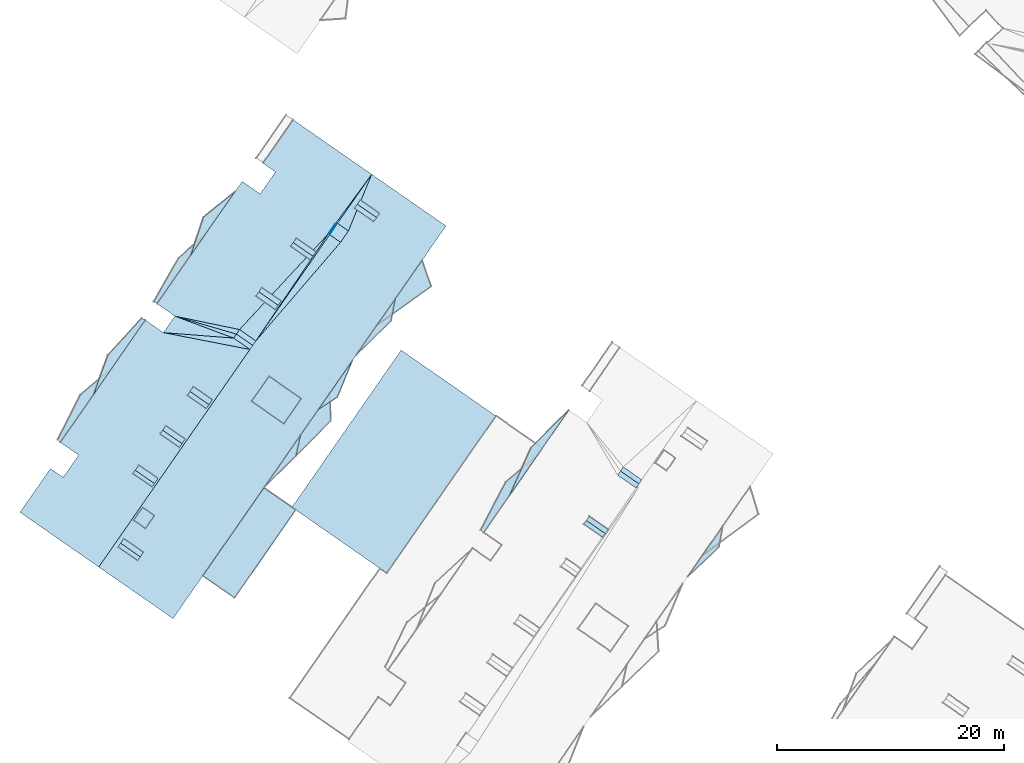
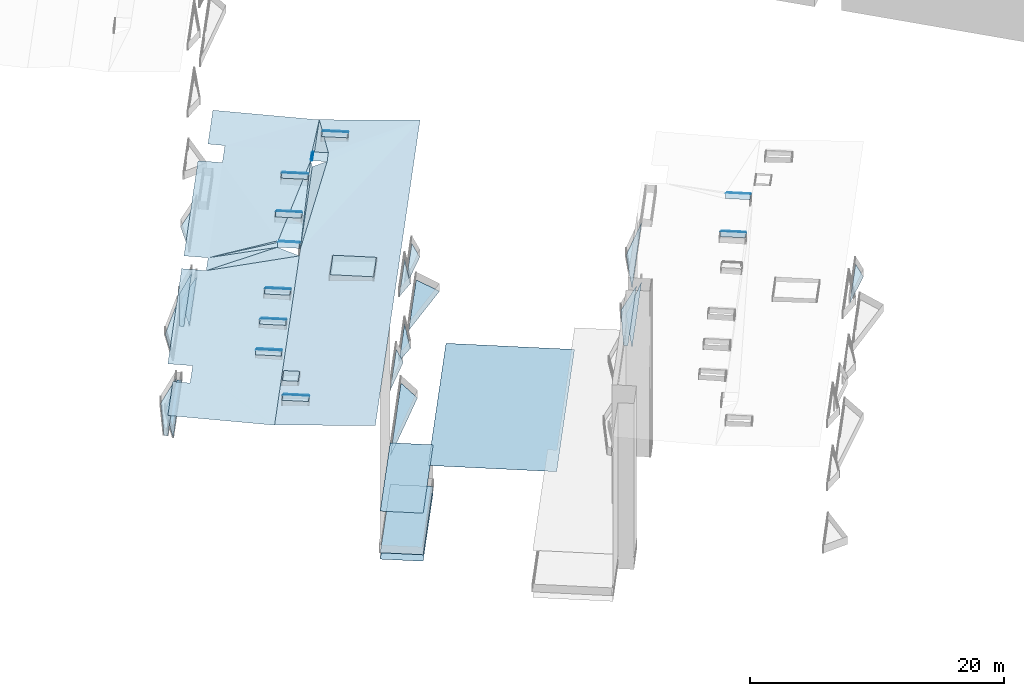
# Not in any storey, part 129 of 136: 91 roofs.
"""IFC4 building model written with IfcOpenShell, lengths in metres."""

import ifcopenshell
import ifcopenshell.guid

model = None  # the IFC model being written
_history = None  # IfcOwnerHistory: only IFC2X3 demands one
_inside = {}  # id of a spatial element -> (the spatial element, [elements in it])
_under = {}  # id of a project, library or spatial element -> (it, [spatial elements below it])
_declared = {}  # id of a project -> (the project, [libraries it declares])
_typed = {}  # id of a type object -> (the type object, [elements of that type])
_made_of = {}  # id of a material, layer set ... -> (it, [elements and type objects made of it])


def new_model(schema):
    """Start an empty IFC model of exactly this schema.

    Asked for "IFC4X3", IfcOpenShell would pick the latest addendum, in which some entities
    have other attributes; the version numbers below select the first issue.
    IFC2X3 requires an IfcOwnerHistory on every rooted entity: one is made here for all.
    """
    global model, _history
    if schema == "IFC4X3":
        model = ifcopenshell.file(schema_version=(4, 3, 0, 0))
    else:
        model = ifcopenshell.file(schema=schema)
    _inside.clear()
    _under.clear()
    _declared.clear()
    _typed.clear()
    _made_of.clear()
    _history = None
    if model.schema == "IFC2X3":
        org = make("IfcOrganization", Name="unknown")
        user = make(
            "IfcPersonAndOrganization",
            ThePerson=make("IfcPerson", FamilyName="unknown"),
            TheOrganization=org,
        )
        app = make(
            "IfcApplication",
            ApplicationDeveloper=org,
            Version="unknown",
            ApplicationFullName="unknown",
            ApplicationIdentifier="unknown",
        )
        _history = make(
            "IfcOwnerHistory",
            OwningUser=user,
            OwningApplication=app,
            ChangeAction="ADDED",
            CreationDate=0,
        )
    return model


def make(cls, **values):
    """One entity of the class cls with the attributes given. An attribute that is None is left unset."""
    return model.create_entity(
        cls, **{name: value for name, value in values.items() if value is not None}
    )


def entity(cls, *values):
    """Any entity or typed value of the class cls, its attributes in the order of the schema. None: left unset."""
    e = model.create_entity(cls)
    for i, value in enumerate(values):
        if value is not None:
            e[i] = value
    return e


def rooted(cls, **values):
    """An entity with a GlobalId (a new one), such as an element, a storey or a relation."""
    return make(cls, GlobalId=ifcopenshell.guid.new(), OwnerHistory=_history, **values)


def si_unit(unit_type, name, prefix=None):
    """IfcSIUnit, for example si_unit("LENGTHUNIT", "METRE", prefix="MILLI")."""
    return make("IfcSIUnit", UnitType=unit_type, Prefix=prefix, Name=name)


def converted_unit(unit_type, name, factor, base, dimensions=None, offset=None):
    """IfcConversionBasedUnit, such as the inch: factor (a typed value) times the base unit."""
    return make(
        "IfcConversionBasedUnit"
        if offset is None
        else "IfcConversionBasedUnitWithOffset",
        ConversionOffset=offset,
        Dimensions=None
        if dimensions is None
        else entity("IfcDimensionalExponents", *dimensions),
        UnitType=unit_type,
        Name=name,
        ConversionFactor=make(
            "IfcMeasureWithUnit", ValueComponent=factor, UnitComponent=base
        ),
    )


def assignment(units):
    """IfcUnitAssignment: the units of a project."""
    return None if units is None else make("IfcUnitAssignment", Units=units)


def point(xyz):
    """IfcCartesianPoint."""
    return None if xyz is None else make("IfcCartesianPoint", Coordinates=xyz)


def direction(xyz):
    """IfcDirection."""
    return None if xyz is None else make("IfcDirection", DirectionRatios=xyz)


def frame(location, z_axis=None, x_axis=None):
    """IfcAxis2Placement3D, a coordinate frame: its origin and axes. An axis left out is left unset."""
    return make(
        "IfcAxis2Placement3D",
        Location=point(location),
        Axis=direction(z_axis),
        RefDirection=direction(x_axis),
    )


def origin():
    """The frame at (0, 0, 0) with its axes left unset."""
    return frame((0.0, 0.0, 0.0))


def place(relative_to, where):
    """IfcLocalPlacement: puts the frame where relative to a parent placement (None: the world)."""
    return make(
        "IfcLocalPlacement", PlacementRelTo=relative_to, RelativePlacement=where
    )


def context(
    kind, dimensions, precision=None, world=None, true_north=None, identifier=None
):
    """IfcGeometricRepresentationContext, for example the 3D "Model" context."""
    return make(
        "IfcGeometricRepresentationContext",
        ContextIdentifier=identifier,
        ContextType=kind,
        CoordinateSpaceDimension=dimensions,
        Precision=precision,
        WorldCoordinateSystem=world,
        TrueNorth=true_north,
    )


def subcontext(parent, identifier, kind, view, scale=None):
    """IfcGeometricRepresentationSubContext, for example "Body" below "Model"."""
    return make(
        "IfcGeometricRepresentationSubContext",
        ContextIdentifier=identifier,
        ContextType=kind,
        ParentContext=parent,
        TargetScale=scale,
        TargetView=view,
    )


def project(units=None, contexts=None):
    """IfcProject with its units and contexts."""
    return rooted(
        "IfcProject",
        Name="project",
        RepresentationContexts=contexts,
        UnitsInContext=assignment(units),
    )


def spatial(cls, under=None, at=None, **own):
    """A site, building, storey or space (cls), placed at a placement, below another one or the project."""
    s = rooted(cls, ObjectPlacement=at, **own)
    if under is not None:
        _under.setdefault(under.id(), (under, []))[1].append(s)
    return s


def faces_of(points, faces, orient=None, outer=None):
    """IfcFace entities. A face is a list of loops; a loop is a list of indices into points, from 0.

    orient and outer hold one flag for each loop. By default every Orientation is true, the
    first loop of a face is its IfcFaceOuterBound and the others are IfcFaceBound.
    """
    made = []
    for i, loops in enumerate(faces):
        bounds = []
        for j, loop in enumerate(loops):
            is_outer = j == 0 if outer is None else outer[i][j]
            bounds.append(
                make(
                    "IfcFaceOuterBound" if is_outer else "IfcFaceBound",
                    Bound=make("IfcPolyLoop", Polygon=[points[k] for k in loop]),
                    Orientation=True if orient is None else orient[i][j],
                )
            )
        made.append(make("IfcFace", Bounds=bounds))
    return made


def face_set(faces, orient=None, outer=None):
    """The faces of one IfcConnectedFaceSet. surface_model builds it on its shared points."""
    return ("IfcConnectedFaceSet", faces, orient, outer)


def surface_model(cls, points, shells):
    """IfcFaceBasedSurfaceModel or IfcShellBasedSurfaceModel (cls): surfaces that need not close."""
    shared = [point(p) for p in points]
    made = [make(c, CfsFaces=faces_of(shared, fs, o, b)) for c, fs, o, b in shells]
    if cls == "IfcFaceBasedSurfaceModel":
        return make(cls, FbsmFaces=made)
    return make(cls, SbsmBoundary=made)


def shape(context_of_items, identifier, shape_type, items):
    """IfcShapeRepresentation: the items that make up one representation, for example the "Body"."""
    return make(
        "IfcShapeRepresentation",
        ContextOfItems=context_of_items,
        RepresentationIdentifier=identifier,
        RepresentationType=shape_type,
        Items=items,
    )


def made_of(thing, what):
    """Note that an element or type object is made of a material, layer set ...; save() writes the relation."""
    if what is not None:
        _made_of.setdefault(what.id(), (what, []))[1].append(thing)
    return thing


def element(
    cls,
    number,
    at=None,
    inside=None,
    cuts=None,
    type_object=None,
    material=None,
    context=None,
    identifier="Body",
    shape_type=None,
    held_by="IfcProductDefinitionShape",
    body=None,
    shapes=None,
    **own,
):
    """One element of the class cls, such as IfcWall. Its Tag is "e" and its number.

    at: its placement. inside: the storey or other place that contains it. cuts: it is an
    opening in that element (IfcRelVoidsElement). A single representation is given by context,
    identifier, shape_type and body (its items); several are given by shapes. held_by: the class
    of the entity that holds the representations. save() writes the other relations.
    """
    e = rooted(cls, Tag="e%d" % number, ObjectPlacement=at, **own)
    if body is not None:
        shapes = [shape(context, identifier, shape_type, body)]
    if shapes is not None:
        e.Representation = make(held_by, Representations=shapes)
    if inside is not None:
        _inside.setdefault(inside.id(), (inside, []))[1].append(e)
    if cuts is not None:
        rooted(
            "IfcRelVoidsElement", RelatingBuildingElement=cuts, RelatedOpeningElement=e
        )
    if type_object is not None:
        _typed.setdefault(type_object.id(), (type_object, []))[1].append(e)
    return made_of(e, material)


def aggregate(whole, parts):
    """IfcRelAggregates: a whole, such as a stair, and the parts it consists of."""
    return rooted("IfcRelAggregates", RelatingObject=whole, RelatedObjects=parts)


def save(model, path):
    """Write the relations noted so far, then the file.

    IfcRelAggregates (storeys below a building ...), IfcRelContainedInSpatialStructure (elements
    in a storey), IfcRelDefinesByType, IfcRelAssociatesMaterial and IfcRelDeclares: one each for
    every whole, place, type object, material and project.
    """
    for whole, parts in _under.values():
        aggregate(whole, parts)
    for where, things in _inside.values():
        rooted(
            "IfcRelContainedInSpatialStructure",
            RelatedElements=things,
            RelatingStructure=where,
        )
    for kind, things in _typed.values():
        rooted("IfcRelDefinesByType", RelatedObjects=things, RelatingType=kind)
    for what, things in _made_of.values():
        rooted("IfcRelAssociatesMaterial", RelatedObjects=things, RelatingMaterial=what)
    for by, libraries in _declared.values():
        rooted("IfcRelDeclares", RelatingContext=by, RelatedDefinitions=libraries)
    model.write(path)


model = new_model("IFC4")

# Units and contexts
model_context = context("Model", 3, precision=1e-05, world=origin())
body_context = subcontext(model_context, "Body", "Model", "MODEL_VIEW")
ifc_project = project(units=[converted_unit("PLANEANGLEUNIT", "DEGREE", entity("IfcRatioMeasure", 0.0174532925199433), si_unit("PLANEANGLEUNIT", "RADIAN"), dimensions=[0, 0, 0, 0, 0, 0, 0]), si_unit("AREAUNIT", "SQUARE_METRE"), si_unit("LENGTHUNIT", "METRE")], contexts=[model_context])

# Site, building
site_placement = place(None, origin())
site = spatial("IfcSite", under=ifc_project, at=site_placement, Name="_site")
building_1_placement = place(site_placement, origin())
building_1 = spatial("IfcBuilding", under=site, at=building_1_placement, Name="_building")

# Roofs
roof_1_placement = place(building_1_placement, origin())
element("IfcRoof", 1, at=roof_1_placement, inside=building_1, Name="Roof", PredefinedType="NOTDEFINED", context=body_context, shape_type="SurfaceModel", body=[
    surface_model("IfcFaceBasedSurfaceModel", [(-12.71, 69.46, 44.4), (-16.02, 66.17, 44.4), (-17.93, 61.93, 44.4)], [face_set([[[0, 1, 2]]])]),
])
for number, where, name in (
    (2, (0.0, 0.0, 0.0), "Roof"),
    (3, (0.0, 0.0, 0.0), "Roof"),
):
    element("IfcRoof", number, at=place(building_1_placement, frame(where)), inside=building_1, Name=name, PredefinedType="NOTDEFINED", context=body_context, shape_type="SurfaceModel", body=[
        surface_model("IfcFaceBasedSurfaceModel", [(-9.49, 58.59, 54.52), (-9.24, 58.95, 54.35), (-10.91, 60.11, 54.35), (-11.16, 59.75, 54.52)], [face_set([[[0, 1, 2, 3]]])]),
    ])
roof_2_placement = place(building_1_placement, origin())
element("IfcRoof", 4, at=roof_2_placement, inside=building_1, Name="Roof", PredefinedType="NOTDEFINED", context=body_context, shape_type="SurfaceModel", body=[
    surface_model("IfcFaceBasedSurfaceModel", [(-12.71, 69.46, 44.4), (-16.02, 66.17, 44.4), (-17.93, 61.93, 44.4)], [face_set([[[0, 1, 2]]])]),
])
for number, where, name in (
    (5, (0.0, 0.0, 0.0), "Roof"),
    (6, (0.0, 0.0, 0.0), "Roof"),
):
    element("IfcRoof", number, at=place(building_1_placement, frame(where)), inside=building_1, Name=name, PredefinedType="NOTDEFINED", context=body_context, shape_type="SurfaceModel", body=[
        surface_model("IfcFaceBasedSurfaceModel", [(-12.71, 69.46, 50.1), (-16.02, 66.17, 50.1), (-17.93, 61.93, 50.1)], [face_set([[[0, 1, 2]]])]),
    ])
for number, where, name in (
    (7, (0.0, 0.0, 0.0), "Roof"),
    (8, (0.0, 0.0, 0.0), "Roof"),
):
    element("IfcRoof", number, at=place(building_1_placement, frame(where)), inside=building_1, Name=name, PredefinedType="NOTDEFINED", context=body_context, shape_type="SurfaceModel", body=[
        surface_model("IfcFaceBasedSurfaceModel", [(-9.72, 58.26, 54.35), (-9.49, 58.59, 54.52), (-11.16, 59.75, 54.52), (-11.39, 59.42, 54.35)], [face_set([[[0, 1, 2, 3]]])]),
    ])
for number, where, name in (
    (9, (0.0, 0.0, 0.0), "Roof"),
    (10, (0.0, 0.0, 0.0), "Roof"),
):
    element("IfcRoof", number, at=place(building_1_placement, frame(where)), inside=building_1, Name=name, PredefinedType="NOTDEFINED", context=body_context, shape_type="SurfaceModel", body=[
        surface_model("IfcFaceBasedSurfaceModel", [(-15.46, 65.49, 47.4), (-18.25, 63.13, 47.4), (-20.46, 58.9, 47.4), (-20.19, 58.67, 47.4)], [face_set([[[0, 1, 2, 3]]])]),
    ])
for number, where, name in (
    (11, (0.0, 0.0, 0.0), "Roof"),
    (12, (0.0, 0.0, 0.0), "Roof"),
):
    element("IfcRoof", number, at=place(building_1_placement, frame(where)), inside=building_1, Name=name, PredefinedType="NOTDEFINED", context=body_context, shape_type="SurfaceModel", body=[
        surface_model("IfcFaceBasedSurfaceModel", [(-6.54, 62.97, 54.52), (-8.16, 64.101, 54.52), (-8.41, 63.74, 54.35), (-6.79, 62.61, 54.35), (-6.679, 62.771, 54.426)], [face_set([[[0, 1, 2, 3, 4]]])]),
    ])
for number, where, name in (
    (13, (0.0, 0.0, 0.0), "Roof"),
    (14, (0.0, 0.0, 0.0), "Roof"),
):
    element("IfcRoof", number, at=place(building_1_placement, frame(where)), inside=building_1, Name=name, PredefinedType="NOTDEFINED", context=body_context, shape_type="SurfaceModel", body=[
        surface_model("IfcFaceBasedSurfaceModel", [(-6.29, 63.33, 54.35), (-7.91, 64.46, 54.35), (-8.16, 64.101, 54.52), (-6.54, 62.97, 54.52)], [face_set([[[0, 1, 2, 3]]])]),
    ])
for number, where, name in (
    (15, (0.0, 0.0, 0.0), "Roof"),
    (16, (0.0, 0.0, 0.0), "Roof"),
):
    element("IfcRoof", number, at=place(building_1_placement, frame(where)), inside=building_1, Name=name, PredefinedType="NOTDEFINED", context=body_context, shape_type="SurfaceModel", body=[
        surface_model("IfcFaceBasedSurfaceModel", [(-2.24, 54.8, 47.54), (0.51, 57.41, 47.54), (0.85, 59.25, 47.54)], [face_set([[[0, 1, 2]]])]),
    ])

# Building
building_2_placement = place(site_placement, origin())
building_2 = spatial("IfcBuilding", under=site, at=building_2_placement, Name="_building")

# Roofs
for number, where, name in (
    (17, (0.0, 0.0, 0.0), "Roof"),
    (18, (0.0, 0.0, 0.0), "Roof"),
):
    element("IfcRoof", number, at=place(building_2_placement, frame(where)), inside=building_2, Name=name, PredefinedType="NOTDEFINED", context=body_context, shape_type="SurfaceModel", body=[
        surface_model("IfcFaceBasedSurfaceModel", [(-36.96, 84.2, 54.35), (-37.19, 83.87, 54.18), (-35.46, 82.67, 54.18), (-35.23, 83.01, 54.35)], [face_set([[[0, 1, 2, 3]]])]),
    ])
roof_3_placement = place(building_2_placement, origin())
element("IfcRoof", 19, at=roof_3_placement, inside=building_2, Name="Roof", PredefinedType="NOTDEFINED", context=body_context, shape_type="SurfaceModel", body=[
    surface_model("IfcFaceBasedSurfaceModel", [(-31.32, 87.58, 54.33), (-31.57, 87.22, 54.18), (-29.87, 86.04, 54.18), (-29.62, 86.41, 54.33)], [face_set([[[0, 1, 2, 3]]])]),
])
roof_4_placement = place(building_2_placement, origin())
element("IfcRoof", 20, at=roof_4_placement, inside=building_2, Name="Roof", PredefinedType="NOTDEFINED", context=body_context, shape_type="SurfaceModel", body=[
    surface_model("IfcFaceBasedSurfaceModel", [(-33.06, 85.9, 53.46), (-32.1, 85.23, 54.02), (-32.79, 84.23, 54.02), (-33.75, 84.9, 53.46), (-40.248, 75.549, 53.46), (-40.519, 75.159, 53.46), (-40.769, 74.799, 53.46), (-54.07, 55.65, 53.46), (-47.53, 51.11, 53.88), (-44.91, 54.88, 53.88), (-39.53, 62.62, 53.88), (-23.51, 85.67, 53.88), (-30.05, 90.21, 53.46)], [face_set([[[0, 1, 2, 3, 4, 5, 6, 7, 8, 9, 10, 11, 12]]])]),
])
roof_5_placement = place(building_2_placement, origin())
element("IfcRoof", 21, at=roof_5_placement, inside=building_2, Name="Roof", PredefinedType="NOTDEFINED", context=body_context, shape_type="SurfaceModel", body=[
    surface_model("IfcFaceBasedSurfaceModel", [(-31.32, 87.58, 54.33), (-31.57, 87.22, 54.18), (-29.87, 86.04, 54.18), (-29.62, 86.41, 54.33)], [face_set([[[0, 1, 2, 3]]])]),
])
roof_6_placement = place(building_2_placement, origin())
element("IfcRoof", 22, at=roof_6_placement, inside=building_2, Name="Roof", PredefinedType="NOTDEFINED", context=body_context, shape_type="SurfaceModel", body=[
    surface_model("IfcFaceBasedSurfaceModel", [(-33.06, 85.9, 53.46), (-32.1, 85.23, 54.02), (-32.79, 84.23, 54.02), (-33.75, 84.9, 53.46), (-40.248, 75.549, 53.46), (-40.519, 75.159, 53.46), (-40.769, 74.799, 53.46), (-54.07, 55.65, 53.46), (-47.53, 51.11, 53.88), (-44.91, 54.88, 53.88), (-39.53, 62.62, 53.88), (-23.51, 85.67, 53.88), (-30.05, 90.21, 53.46)], [face_set([[[0, 1, 2, 3, 4, 5, 6, 7, 8, 9, 10, 11, 12]]])]),
])
roof_7_placement = place(building_2_placement, origin())
element("IfcRoof", 23, at=roof_7_placement, inside=building_2, Name="Roof", PredefinedType="NOTDEFINED", context=body_context, shape_type="SurfaceModel", body=[
    surface_model("IfcFaceBasedSurfaceModel", [(-30.05, 90.21, 53.46), (-30.32, 90.4, 53.46), (-36.96, 95.01, 53.88), (-39.62, 91.18, 53.88), (-38.52, 90.42, 53.81), (-39.86, 88.49, 53.81), (-41.45, 89.59, 53.88), (-48.94, 78.82, 53.88), (-47.37, 77.73, 53.81), (-48.38, 76.28, 53.81), (-49.97, 77.39, 53.88), (-57.45, 66.62, 53.88), (-55.84, 65.5, 53.81), (-57.2, 63.54, 53.81), (-58.32, 64.32, 53.88), (-61.0, 60.47, 53.88), (-54.34, 55.84, 53.46), (-54.07, 55.65, 53.46), (-40.769, 74.799, 53.46), (-42.2, 75.8, 54.18), (-41.96, 76.15, 54.35), (-41.68, 76.55, 54.18), (-40.248, 75.549, 53.46), (-33.75, 84.9, 53.46), (-33.86, 84.98, 54.02), (-33.17, 85.97, 54.02), (-33.06, 85.9, 53.46)], [face_set([[[0, 1, 2, 3, 4, 5, 6, 7, 8, 9, 10, 11, 12, 13, 14, 15, 16, 17, 18, 19, 20, 21, 22, 23, 24, 25, 26]]])]),
])
for number, where, name in (
    (24, (0.0, 0.0, 0.0), "Roof"),
    (25, (0.0, 0.0, 0.0), "Roof"),
):
    element("IfcRoof", number, at=place(building_2_placement, frame(where)), inside=building_2, Name=name, PredefinedType="NOTDEFINED", context=body_context, shape_type="SurfaceModel", body=[
        surface_model("IfcFaceBasedSurfaceModel", [(-39.98, 79.87, 54.35), (-40.25, 79.49, 54.18), (-38.54, 78.3, 54.18), (-38.28, 78.68, 54.35)], [face_set([[[0, 1, 2, 3]]])]),
    ])
for number, where, name in (
    (26, (0.0, 0.0, 0.0), "Roof"),
    (27, (0.0, 0.0, 0.0), "Roof"),
):
    element("IfcRoof", number, at=place(building_2_placement, frame(where)), inside=building_2, Name=name, PredefinedType="NOTDEFINED", context=body_context, shape_type="SurfaceModel", body=[
        surface_model("IfcFaceBasedSurfaceModel", [(-48.45, 67.69, 54.37), (-48.68, 67.36, 54.18), (-46.97, 66.17, 54.18), (-46.74, 66.51, 54.37)], [face_set([[[0, 1, 2, 3]]])]),
    ])
roof_8_placement = place(building_2_placement, origin())
element("IfcRoof", 28, at=roof_8_placement, inside=building_2, Name="Roof", PredefinedType="NOTDEFINED", context=body_context, shape_type="SurfaceModel", body=[
    surface_model("IfcFaceBasedSurfaceModel", [(-30.05, 90.21, 53.46), (-30.32, 90.4, 53.46), (-36.96, 95.01, 53.88), (-39.62, 91.18, 53.88), (-38.52, 90.42, 53.81), (-39.86, 88.49, 53.81), (-41.45, 89.59, 53.88), (-48.94, 78.82, 53.88), (-47.37, 77.73, 53.81), (-48.38, 76.28, 53.81), (-49.97, 77.39, 53.88), (-57.45, 66.62, 53.88), (-55.84, 65.5, 53.81), (-57.2, 63.54, 53.81), (-58.32, 64.32, 53.88), (-61.0, 60.47, 53.88), (-54.34, 55.84, 53.46), (-54.07, 55.65, 53.46), (-40.769, 74.799, 53.46), (-42.2, 75.8, 54.18), (-41.96, 76.15, 54.35), (-41.68, 76.55, 54.18), (-40.248, 75.549, 53.46), (-33.75, 84.9, 53.46), (-33.86, 84.98, 54.02), (-33.17, 85.97, 54.02), (-33.06, 85.9, 53.46)], [face_set([[[0, 1, 2, 3, 4, 5, 6, 7, 8, 9, 10, 11, 12, 13, 14, 15, 16, 17, 18, 19, 20, 21, 22, 23, 24, 25, 26]]])]),
])
for number, where, name in (
    (29, (0.0, 0.0, 0.0), "Roof"),
    (30, (0.0, 0.0, 0.0), "Roof"),
):
    element("IfcRoof", number, at=place(building_2_placement, frame(where)), inside=building_2, Name=name, PredefinedType="NOTDEFINED", context=body_context, shape_type="SurfaceModel", body=[
        surface_model("IfcFaceBasedSurfaceModel", [(-33.06, 85.9, 54.02), (-33.17, 85.97, 54.02), (-33.86, 84.98, 54.02), (-33.75, 84.9, 54.02)], [face_set([[[0, 1, 2, 3]]])]),
    ])
roof_9_placement = place(building_2_placement, origin())
element("IfcRoof", 31, at=roof_9_placement, inside=building_2, Name="Roof", PredefinedType="NOTDEFINED", context=body_context, shape_type="SurfaceModel", body=[
    surface_model("IfcFaceBasedSurfaceModel", [(-33.75, 84.9, 54.02), (-32.79, 84.23, 54.02), (-32.1, 85.23, 54.02), (-33.06, 85.9, 54.02)], [face_set([[[0, 1, 2, 3]]])]),
])
roof_10_placement = place(building_2_placement, origin())
element("IfcRoof", 32, at=roof_10_placement, inside=building_2, Name="Roof", PredefinedType="NOTDEFINED", context=body_context, shape_type="SurfaceModel", body=[
    surface_model("IfcFaceBasedSurfaceModel", [(-46.04, 71.101, 54.37), (-46.28, 70.75, 54.18), (-44.61, 69.59, 54.18), (-44.37, 69.94, 54.37)], [face_set([[[0, 1, 2, 3]]])]),
])
roof_11_placement = place(building_2_placement, origin())
element("IfcRoof", 33, at=roof_11_placement, inside=building_2, Name="Roof", PredefinedType="NOTDEFINED", context=body_context, shape_type="SurfaceModel", body=[
    surface_model("IfcFaceBasedSurfaceModel", [(-33.75, 84.9, 54.02), (-32.79, 84.23, 54.02), (-32.1, 85.23, 54.02), (-33.06, 85.9, 54.02)], [face_set([[[0, 1, 2, 3]]])]),
])
roof_12_placement = place(building_2_placement, origin())
element("IfcRoof", 34, at=roof_12_placement, inside=building_2, Name="Roof", PredefinedType="NOTDEFINED", context=body_context, shape_type="SurfaceModel", body=[
    surface_model("IfcFaceBasedSurfaceModel", [(-46.04, 71.101, 54.37), (-46.28, 70.75, 54.18), (-44.61, 69.59, 54.18), (-44.37, 69.94, 54.37)], [face_set([[[0, 1, 2, 3]]])]),
])
for number, where, name in (
    (35, (0.0, 0.0, 0.0), "Roof"),
    (36, (0.0, 0.0, 0.0), "Roof"),
):
    element("IfcRoof", number, at=place(building_2_placement, frame(where)), inside=building_2, Name=name, PredefinedType="NOTDEFINED", context=body_context, shape_type="SurfaceModel", body=[
        surface_model("IfcFaceBasedSurfaceModel", [(-52.14, 57.75, 54.37), (-52.37, 57.41, 54.18), (-50.65, 56.22, 54.18), (-50.42, 56.55, 54.37)], [face_set([[[0, 1, 2, 3]]])]),
    ])
for number, where, name in (
    (37, (0.0, 0.0, 0.0), "Roof"),
    (38, (0.0, 0.0, 0.0), "Roof"),
):
    element("IfcRoof", number, at=place(building_2_placement, frame(where)), inside=building_2, Name=name, PredefinedType="NOTDEFINED", context=body_context, shape_type="SurfaceModel", body=[
        surface_model("IfcFaceBasedSurfaceModel", [(-50.86, 64.17, 54.37), (-51.07, 63.87, 54.18), (-49.38, 62.7, 54.18), (-49.17, 63.0, 54.37)], [face_set([[[0, 1, 2, 3]]])]),
    ])
for number, where, name in (
    (39, (0.0, 0.0, 0.0), "Roof"),
    (40, (0.0, 0.0, 0.0), "Roof"),
):
    element("IfcRoof", number, at=place(building_2_placement, frame(where)), inside=building_2, Name=name, PredefinedType="NOTDEFINED", context=body_context, shape_type="SurfaceModel", body=[
        surface_model("IfcFaceBasedSurfaceModel", [(-37.07, 60.91, 40.43), (-36.74, 60.68, 40.43), (-29.32, 55.521, 40.43), (-28.72, 55.11, 40.43), (-19.11, 68.94, 40.43), (-27.46, 74.74, 40.43)], [face_set([[[0, 1, 2, 3, 4, 5]]])]),
    ])
roof_13_placement = place(building_2_placement, origin())
element("IfcRoof", 41, at=roof_13_placement, inside=building_2, Name="Roof", PredefinedType="NOTDEFINED", context=body_context, shape_type="SurfaceModel", body=[
    surface_model("IfcFaceBasedSurfaceModel", [(-44.71, 84.91, 47.1), (-47.04, 82.84, 47.1), (-49.22, 79.01, 47.1), (-48.94, 78.82, 47.1)], [face_set([[[0, 1, 2, 3]]])]),
])
for number, where, name in (
    (42, (0.0, 0.0, 0.0), "Roof"),
    (43, (0.0, 0.0, 0.0), "Roof"),
):
    element("IfcRoof", number, at=place(building_2_placement, frame(where)), inside=building_2, Name=name, PredefinedType="NOTDEFINED", context=body_context, shape_type="SurfaceModel", body=[
        surface_model("IfcFaceBasedSurfaceModel", [(-31.78, 73.771, 50.63), (-34.74, 69.51, 50.63), (-33.08, 70.61, 50.63)], [face_set([[[0, 1, 2]]])]),
    ])
roof_14_placement = place(building_2_placement, origin())
element("IfcRoof", 44, at=roof_14_placement, inside=building_2, Name="Roof", PredefinedType="NOTDEFINED", context=body_context, shape_type="SurfaceModel", body=[
    surface_model("IfcFaceBasedSurfaceModel", [(-48.17, 68.09, 54.18), (-48.45, 67.69, 54.37), (-46.74, 66.51, 54.37), (-46.46, 66.91, 54.18)], [face_set([[[0, 1, 2, 3]]])]),
])
roof_15_placement = place(building_2_placement, origin())
element("IfcRoof", 45, at=roof_15_placement, inside=building_2, Name="Roof", PredefinedType="NOTDEFINED", context=body_context, shape_type="SurfaceModel", body=[
    surface_model("IfcFaceBasedSurfaceModel", [(-44.71, 84.91, 47.1), (-47.04, 82.84, 47.1), (-49.22, 79.01, 47.1), (-48.94, 78.82, 47.1)], [face_set([[[0, 1, 2, 3]]])]),
])
roof_16_placement = place(building_2_placement, origin())
element("IfcRoof", 46, at=roof_16_placement, inside=building_2, Name="Roof", PredefinedType="NOTDEFINED", context=body_context, shape_type="SurfaceModel", body=[
    surface_model("IfcFaceBasedSurfaceModel", [(-45.74, 71.53, 54.18), (-46.04, 71.101, 54.37), (-44.37, 69.94, 54.37), (-44.07, 70.37, 54.18)], [face_set([[[0, 1, 2, 3]]])]),
])
roof_17_placement = place(building_2_placement, origin())
element("IfcRoof", 47, at=roof_17_placement, inside=building_2, Name="Roof", PredefinedType="NOTDEFINED", context=body_context, shape_type="SurfaceModel", body=[
    surface_model("IfcFaceBasedSurfaceModel", [(-36.29, 67.28, 47.47), (-39.53, 62.62, 47.47), (-36.71, 65.45, 47.47)], [face_set([[[0, 1, 2]]])]),
])
for number, where, name in (
    (48, (0.0, 0.0, 0.0), "Roof"),
    (49, (0.0, 0.0, 0.0), "Roof"),
):
    element("IfcRoof", number, at=place(building_2_placement, frame(where)), inside=building_2, Name=name, PredefinedType="NOTDEFINED", context=body_context, shape_type="SurfaceModel", body=[
        surface_model("IfcFaceBasedSurfaceModel", [(-27.96, 79.271, 47.47), (-31.43, 74.28, 47.47), (-28.35, 77.32, 47.47)], [face_set([[[0, 1, 2]]])]),
    ])
roof_18_placement = place(building_2_placement, origin())
element("IfcRoof", 50, at=roof_18_placement, inside=building_2, Name="Roof", PredefinedType="NOTDEFINED", context=body_context, shape_type="SurfaceModel", body=[
    surface_model("IfcFaceBasedSurfaceModel", [(-31.78, 73.771, 44.42), (-34.74, 69.51, 44.42), (-33.08, 70.61, 44.42)], [face_set([[[0, 1, 2]]])]),
])
for number, where, name in (
    (51, (0.0, 0.0, 0.0), "Roof"),
    (52, (0.0, 0.0, 0.0), "Roof"),
):
    element("IfcRoof", number, at=place(building_2_placement, frame(where)), inside=building_2, Name=name, PredefinedType="NOTDEFINED", context=body_context, shape_type="SurfaceModel", body=[
        surface_model("IfcFaceBasedSurfaceModel", [(-52.89, 73.18, 46.95), (-55.72, 70.76, 46.95), (-57.68, 66.84, 46.95), (-57.45, 66.62, 46.95)], [face_set([[[0, 1, 2, 3]]])]),
    ])
for number, where, name in (
    (53, (0.0, 0.0, 0.0), "Roof"),
    (54, (0.0, 0.0, 0.0), "Roof"),
):
    element("IfcRoof", number, at=place(building_2_placement, frame(where)), inside=building_2, Name=name, PredefinedType="NOTDEFINED", context=body_context, shape_type="SurfaceModel", body=[
        surface_model("IfcFaceBasedSurfaceModel", [(-53.26, 74.3, 50.62), (-54.53, 70.82, 50.62), (-49.97, 77.39, 50.62), (-50.3, 77.53, 50.62)], [face_set([[[0, 1, 2, 3]]])]),
    ])
roof_19_placement = place(building_2_placement, origin())
element("IfcRoof", 55, at=roof_19_placement, inside=building_2, Name="Roof", PredefinedType="NOTDEFINED", context=body_context, shape_type="SurfaceModel", body=[
    surface_model("IfcFaceBasedSurfaceModel", [(-51.86, 58.15, 54.18), (-52.14, 57.75, 54.37), (-50.42, 56.55, 54.37), (-50.14, 56.95, 54.18)], [face_set([[[0, 1, 2, 3]]])]),
])
for number, where, name in (
    (56, (0.0, 0.0, 0.0), "Roof"),
    (57, (0.0, 0.0, 0.0), "Roof"),
):
    element("IfcRoof", number, at=place(building_2_placement, frame(where)), inside=building_2, Name=name, PredefinedType="NOTDEFINED", context=body_context, shape_type="SurfaceModel", body=[
        surface_model("IfcFaceBasedSurfaceModel", [(-36.29, 67.28, 41.1), (-39.53, 62.62, 41.1), (-33.64, 68.53, 41.1), (-33.74, 70.95, 41.1)], [face_set([[[0, 1, 2, 3]]])]),
    ])
roof_20_placement = place(building_2_placement, origin())
element("IfcRoof", 58, at=roof_20_placement, inside=building_2, Name="Roof", PredefinedType="NOTDEFINED", context=body_context, shape_type="SurfaceModel", body=[
    surface_model("IfcFaceBasedSurfaceModel", [(-51.86, 58.15, 54.18), (-52.14, 57.75, 54.37), (-50.42, 56.55, 54.37), (-50.14, 56.95, 54.18)], [face_set([[[0, 1, 2, 3]]])]),
])
roof_21_placement = place(building_2_placement, origin())
element("IfcRoof", 59, at=roof_21_placement, inside=building_2, Name="Roof", PredefinedType="NOTDEFINED", context=body_context, shape_type="SurfaceModel", body=[
    surface_model("IfcFaceBasedSurfaceModel", [(-50.55, 64.62, 54.18), (-50.86, 64.17, 54.37), (-49.17, 63.0, 54.37), (-48.86, 63.45, 54.18)], [face_set([[[0, 1, 2, 3]]])]),
])
roof_22_placement = place(building_2_placement, origin())
element("IfcRoof", 60, at=roof_22_placement, inside=building_2, Name="Roof", PredefinedType="NOTDEFINED", context=body_context, shape_type="SurfaceModel", body=[
    surface_model("IfcFaceBasedSurfaceModel", [(-45.74, 71.53, 54.18), (-46.04, 71.101, 54.37), (-44.37, 69.94, 54.37), (-44.07, 70.37, 54.18)], [face_set([[[0, 1, 2, 3]]])]),
])
for number, where, name in (
    (61, (0.0, 0.0, 0.0), "Roof"),
    (62, (0.0, 0.0, 0.0), "Roof"),
):
    element("IfcRoof", number, at=place(building_2_placement, frame(where)), inside=building_2, Name=name, PredefinedType="NOTDEFINED", context=body_context, shape_type="SurfaceModel", body=[
        surface_model("IfcFaceBasedSurfaceModel", [(-39.72, 80.24, 54.18), (-39.98, 79.87, 54.35), (-38.28, 78.68, 54.35), (-38.02, 79.061, 54.18)], [face_set([[[0, 1, 2, 3]]])]),
    ])
for number, where, name in (
    (63, (0.0, 0.0, 0.0), "Roof"),
    (64, (0.0, 0.0, 0.0), "Roof"),
):
    element("IfcRoof", number, at=place(building_2_placement, frame(where)), inside=building_2, Name=name, PredefinedType="NOTDEFINED", context=body_context, shape_type="SurfaceModel", body=[
        surface_model("IfcFaceBasedSurfaceModel", [(-36.69, 84.59, 54.18), (-36.96, 84.2, 54.35), (-35.23, 83.01, 54.35), (-34.96, 83.39, 54.18)], [face_set([[[0, 1, 2, 3]]])]),
    ])
for number, where, name in (
    (65, (0.0, 0.0, 0.0), "Roof"),
    (66, (0.0, 0.0, 0.0), "Roof"),
):
    element("IfcRoof", number, at=place(building_2_placement, frame(where)), inside=building_2, Name=name, PredefinedType="NOTDEFINED", context=body_context, shape_type="SurfaceModel", body=[
        surface_model("IfcFaceBasedSurfaceModel", [(-31.06, 87.95, 54.18), (-31.32, 87.58, 54.33), (-29.62, 86.41, 54.33), (-29.37, 86.771, 54.18)], [face_set([[[0, 1, 2, 3]]])]),
    ])
for number, where, name in (
    (67, (0.0, 0.0, 0.0), "Roof"),
    (68, (0.0, 0.0, 0.0), "Roof"),
):
    element("IfcRoof", number, at=place(building_2_placement, frame(where)), inside=building_2, Name=name, PredefinedType="NOTDEFINED", context=body_context, shape_type="SurfaceModel", body=[
        surface_model("IfcFaceBasedSurfaceModel", [(-49.17, 60.17, 54.17), (-50.21, 60.89, 54.17), (-51.0, 59.76, 54.17), (-49.96, 59.04, 54.17)], [face_set([[[0, 1, 2, 3]]])]),
    ])
roof_23_placement = place(building_2_placement, origin())
element("IfcRoof", 69, at=roof_23_placement, inside=building_2, Name="Roof", PredefinedType="NOTDEFINED", context=body_context, shape_type="SurfaceModel", body=[
    surface_model("IfcFaceBasedSurfaceModel", [(-31.78, 73.771, 44.42), (-34.74, 69.51, 44.42), (-33.08, 70.61, 44.42)], [face_set([[[0, 1, 2]]])]),
])
for number, where, name in (
    (70, (0.0, 0.0, 0.0), "Roof"),
    (71, (0.0, 0.0, 0.0), "Roof"),
):
    element("IfcRoof", number, at=place(building_2_placement, frame(where)), inside=building_2, Name=name, PredefinedType="NOTDEFINED", context=body_context, shape_type="SurfaceModel", body=[
        surface_model("IfcFaceBasedSurfaceModel", [(-40.62, 70.23, 54.37), (-37.78, 68.25, 54.37), (-36.25, 70.46, 54.37), (-39.08, 72.43, 54.37)], [face_set([[[0, 1, 2, 3]]])]),
    ])
roof_24_placement = place(building_2_placement, origin())
element("IfcRoof", 72, at=roof_24_placement, inside=building_2, Name="Roof", PredefinedType="NOTDEFINED", context=body_context, shape_type="SurfaceModel", body=[
    surface_model("IfcFaceBasedSurfaceModel", [(-48.17, 68.09, 54.18), (-48.45, 67.69, 54.37), (-46.74, 66.51, 54.37), (-46.46, 66.91, 54.18)], [face_set([[[0, 1, 2, 3]]])]),
])
roof_25_placement = place(building_2_placement, origin())
element("IfcRoof", 73, at=roof_25_placement, inside=building_2, Name="Roof", PredefinedType="NOTDEFINED", context=body_context, shape_type="SurfaceModel", body=[
    surface_model("IfcFaceBasedSurfaceModel", [(-42.08, 88.69, 43.5), (-44.85, 86.43, 43.5), (-45.97, 83.09, 43.5)], [face_set([[[0, 1, 2]]])]),
])
roof_26_placement = place(building_2_placement, origin())
element("IfcRoof", 74, at=roof_26_placement, inside=building_2, Name="Roof", PredefinedType="NOTDEFINED", context=body_context, shape_type="SurfaceModel", body=[
    surface_model("IfcFaceBasedSurfaceModel", [(-44.91, 54.88, 37.82), (-42.12, 52.94, 37.82), (-36.74, 60.68, 37.82), (-37.07, 60.91, 37.82), (-39.53, 62.62, 37.82)], [face_set([[[0, 1, 2, 3, 4]]])]),
])
for number, where, name in (
    (75, (0.0, 0.0, 0.0), "Roof"),
    (76, (0.0, 0.0, 0.0), "Roof"),
):
    element("IfcRoof", number, at=place(building_2_placement, frame(where)), inside=building_2, Name=name, PredefinedType="NOTDEFINED", context=body_context, shape_type="SurfaceModel", body=[
        surface_model("IfcFaceBasedSurfaceModel", [(-44.85, 86.43, 50.62), (-45.97, 83.09, 50.62), (-42.08, 88.69, 50.62)], [face_set([[[0, 1, 2]]])]),
    ])
roof_27_placement = place(building_2_placement, origin())
element("IfcRoof", 77, at=roof_27_placement, inside=building_2, Name="Roof", PredefinedType="NOTDEFINED", context=body_context, shape_type="SurfaceModel", body=[
    surface_model("IfcFaceBasedSurfaceModel", [(-40.519, 75.159, 54.35), (-41.96, 76.15, 54.35), (-42.2, 75.8, 54.18), (-40.769, 74.799, 54.18)], [face_set([[[0, 1, 2, 3]]])]),
])
for number, where, name in (
    (78, (0.0, 0.0, 0.0), "Roof"),
    (79, (0.0, 0.0, 0.0), "Roof"),
):
    element("IfcRoof", number, at=place(building_2_placement, frame(where)), inside=building_2, Name=name, PredefinedType="NOTDEFINED", context=body_context, shape_type="SurfaceModel", body=[
        surface_model("IfcFaceBasedSurfaceModel", [(-49.97, 77.39, 43.2), (-50.3, 77.53, 43.2), (-53.26, 74.3, 43.2), (-54.53, 70.82, 43.2)], [face_set([[[0, 1, 2, 3]]])]),
    ])
roof_28_placement = place(building_2_placement, origin())
element("IfcRoof", 80, at=roof_28_placement, inside=building_2, Name="Roof", PredefinedType="NOTDEFINED", context=body_context, shape_type="SurfaceModel", body=[
    surface_model("IfcFaceBasedSurfaceModel", [(-40.519, 75.159, 54.35), (-41.96, 76.15, 54.35), (-42.2, 75.8, 54.18), (-40.769, 74.799, 54.18)], [face_set([[[0, 1, 2, 3]]])]),
])
for number, where, name in (
    (81, (0.0, 0.0, 0.0), "Roof"),
    (82, (0.0, 0.0, 0.0), "Roof"),
):
    element("IfcRoof", number, at=place(building_2_placement, frame(where)), inside=building_2, Name=name, PredefinedType="NOTDEFINED", context=body_context, shape_type="SurfaceModel", body=[
        surface_model("IfcFaceBasedSurfaceModel", [(-42.12, 52.94, 38.44), (-36.74, 60.68, 38.44), (-39.53, 62.62, 38.44), (-44.91, 54.88, 38.44)], [face_set([[[0, 1, 2, 3]]])]),
    ])
for number, where, name in (
    (83, (0.0, 0.0, 0.0), "Roof"),
    (84, (0.0, 0.0, 0.0), "Roof"),
):
    element("IfcRoof", number, at=place(building_2_placement, frame(where)), inside=building_2, Name=name, PredefinedType="NOTDEFINED", context=body_context, shape_type="SurfaceModel", body=[
        surface_model("IfcFaceBasedSurfaceModel", [(-27.96, 79.271, 41.1), (-29.6, 76.91, 41.1), (-24.81, 80.351, 41.1), (-25.61, 82.64, 41.1)], [face_set([[[0, 1, 2, 3]]])]),
    ])
roof_29_placement = place(building_2_placement, origin())
element("IfcRoof", 85, at=roof_29_placement, inside=building_2, Name="Roof", PredefinedType="NOTDEFINED", context=body_context, shape_type="SurfaceModel", body=[
    surface_model("IfcFaceBasedSurfaceModel", [(-42.12, 52.94, 42.44), (-36.74, 60.68, 42.44), (-39.53, 62.62, 42.44), (-44.91, 54.88, 42.44)], [face_set([[[0, 1, 2, 3]]])]),
])
roof_30_placement = place(building_2_placement, origin())
element("IfcRoof", 86, at=roof_30_placement, inside=building_2, Name="Roof", PredefinedType="NOTDEFINED", context=body_context, shape_type="SurfaceModel", body=[
    surface_model("IfcFaceBasedSurfaceModel", [(-36.29, 67.28, 47.47), (-39.53, 62.62, 47.47), (-36.71, 65.45, 47.47)], [face_set([[[0, 1, 2]]])]),
])
roof_31_placement = place(building_2_placement, origin())
element("IfcRoof", 87, at=roof_31_placement, inside=building_2, Name="Roof", PredefinedType="NOTDEFINED", context=body_context, shape_type="SurfaceModel", body=[
    surface_model("IfcFaceBasedSurfaceModel", [(-50.55, 64.62, 54.18), (-50.86, 64.17, 54.37), (-49.17, 63.0, 54.37), (-48.86, 63.45, 54.18)], [face_set([[[0, 1, 2, 3]]])]),
])
for number, where, name in (
    (88, (0.0, 0.0, 0.0), "Roof"),
    (89, (0.0, 0.0, 0.0), "Roof"),
):
    element("IfcRoof", number, at=place(building_2_placement, frame(where)), inside=building_2, Name=name, PredefinedType="NOTDEFINED", context=body_context, shape_type="SurfaceModel", body=[
        surface_model("IfcFaceBasedSurfaceModel", [(-40.248, 75.549, 54.18), (-41.68, 76.55, 54.18), (-41.96, 76.15, 54.35), (-40.519, 75.159, 54.35)], [face_set([[[0, 1, 2, 3]]])]),
    ])
roof_32_placement = place(building_2_placement, origin())
element("IfcRoof", 90, at=roof_32_placement, inside=building_2, Name="Roof", PredefinedType="NOTDEFINED", context=body_context, shape_type="SurfaceModel", body=[
    surface_model("IfcFaceBasedSurfaceModel", [(-42.08, 88.69, 43.5), (-44.85, 86.43, 43.5), (-45.97, 83.09, 43.5)], [face_set([[[0, 1, 2]]])]),
])
roof_33_placement = place(building_2_placement, origin())
element("IfcRoof", 91, at=roof_33_placement, inside=building_2, Name="Roof", PredefinedType="NOTDEFINED", context=body_context, shape_type="SurfaceModel", body=[
    surface_model("IfcFaceBasedSurfaceModel", [(-44.91, 54.88, 37.82), (-42.12, 52.94, 37.82), (-36.74, 60.68, 37.82), (-37.07, 60.91, 37.82), (-39.53, 62.62, 37.82)], [face_set([[[0, 1, 2, 3, 4]]])]),
])

save(model, "model.ifc")
